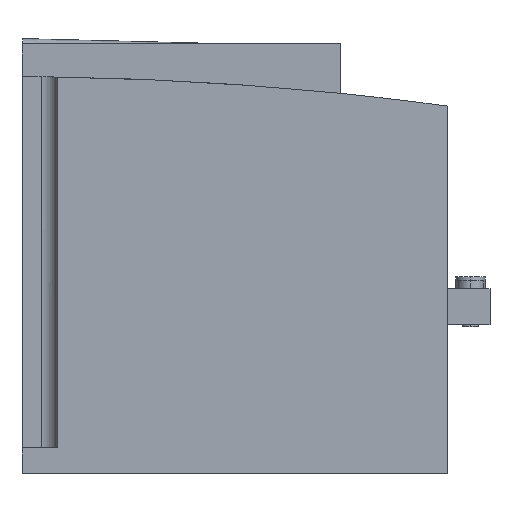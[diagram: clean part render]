
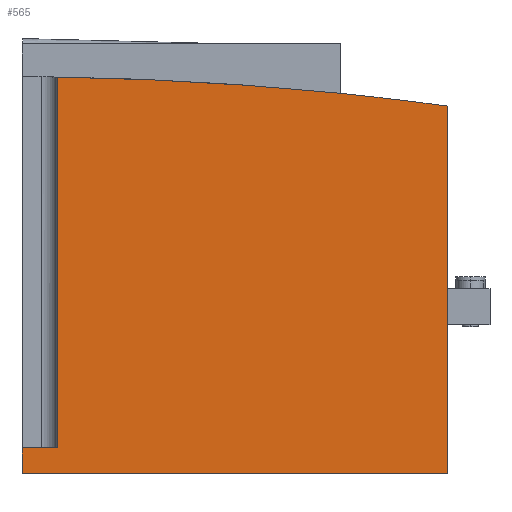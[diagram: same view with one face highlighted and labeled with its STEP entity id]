
A CAD part, left-side view. The second image highlights one B-rep face of the part: STEP entity #565.
In plain terms, the highlighted planar face has unit normal (-1, 0, 0).
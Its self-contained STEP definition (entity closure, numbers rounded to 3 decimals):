
#565=ADVANCED_FACE('',(#1069),#1070,.T.);
#1069=FACE_OUTER_BOUND('',#1383,.T.);
#1070=PLANE('',#1384);
#1383=EDGE_LOOP('',(#1973,#1974,#1975,#1976,#1977,#1978,#1979,#1980));
#1384=AXIS2_PLACEMENT_3D('',#1981,#1982,#1983);
#1973=ORIENTED_EDGE('',*,*,#2668,.T.);
#1974=ORIENTED_EDGE('',*,*,#2671,.F.);
#1975=ORIENTED_EDGE('',*,*,#2672,.T.);
#1976=ORIENTED_EDGE('',*,*,#2673,.F.);
#1977=ORIENTED_EDGE('',*,*,#2674,.F.);
#1978=ORIENTED_EDGE('',*,*,#2675,.T.);
#1979=ORIENTED_EDGE('',*,*,#2676,.F.);
#1980=ORIENTED_EDGE('',*,*,#2632,.F.);
#1981=CARTESIAN_POINT('',(-52.5,59.631,1.5));
#1982=DIRECTION('',(-1.0,0.,0.0));
#1983=DIRECTION('',(0.,-1.0,0.0));
#2632=EDGE_CURVE('',#3140,#3142,#3143,.T.);
#2668=EDGE_CURVE('',#3140,#3192,#3194,.T.);
#2671=EDGE_CURVE('',#3198,#3192,#3199,.T.);
#2672=EDGE_CURVE('',#3198,#3200,#3201,.T.);
#2673=EDGE_CURVE('',#3202,#3200,#3203,.T.);
#2674=EDGE_CURVE('',#3204,#3202,#3205,.T.);
#2675=EDGE_CURVE('',#3204,#3206,#3207,.T.);
#2676=EDGE_CURVE('',#3142,#3206,#3208,.T.);
#3140=VERTEX_POINT('',#3476);
#3142=VERTEX_POINT('',#3479);
#3143=LINE('',#3480,#3481);
#3192=VERTEX_POINT('',#3568);
#3194=CIRCLE('',#3571,1021.569);
#3198=VERTEX_POINT('',#3577);
#3199=LINE('',#3578,#3579);
#3200=VERTEX_POINT('',#3580);
#3201=LINE('',#3581,#3582);
#3202=VERTEX_POINT('',#3583);
#3203=LINE('',#3584,#3585);
#3204=VERTEX_POINT('',#3586);
#3205=LINE('',#3587,#3588);
#3206=VERTEX_POINT('',#3589);
#3207=LINE('',#3590,#3591);
#3208=CIRCLE('',#3592,1063.459);
#3476=CARTESIAN_POINT('',(-52.5,32.8,116.15));
#3479=CARTESIAN_POINT('',(-52.5,32.8,116.143));
#3480=CARTESIAN_POINT('',(-52.5,32.8,62.611));
#3481=VECTOR('',#3816,1.0);
#3568=CARTESIAN_POINT('',(-52.5,119.262,121.113));
#3571=AXIS2_PLACEMENT_3D('',#3875,#3876,#3877);
#3577=CARTESIAN_POINT('',(-52.5,119.262,7.8));
#3578=CARTESIAN_POINT('',(-52.5,119.262,1.5));
#3579=VECTOR('',#3880,1.0);
#3580=CARTESIAN_POINT('',(-52.5,130.0,7.8));
#3581=CARTESIAN_POINT('',(-52.5,0.,7.8));
#3582=VECTOR('',#3881,1.0);
#3583=CARTESIAN_POINT('',(-52.5,130.0,0.0));
#3584=CARTESIAN_POINT('',(-52.5,130.0,0.0));
#3585=VECTOR('',#3882,1.0);
#3586=CARTESIAN_POINT('',(-52.5,0.,0.0));
#3587=CARTESIAN_POINT('',(-52.5,0.,0.0));
#3588=VECTOR('',#3883,1.0);
#3589=CARTESIAN_POINT('',(-52.5,0.,112.247));
#3590=CARTESIAN_POINT('',(-52.5,0.,0.0));
#3591=VECTOR('',#3884,1.0);
#3592=AXIS2_PLACEMENT_3D('',#3885,#3886,#3887);
#3816=DIRECTION('',(0.,0.,-1.0));
#3875=CARTESIAN_POINT('',(-52.5,134.522,-900.342));
#3876=DIRECTION('',(-1.0,0.,0.));
#3877=DIRECTION('',(0.0,0.,1.0));
#3880=DIRECTION('',(0.0,0.0,1.0));
#3881=DIRECTION('',(0.,1.0,0.0));
#3882=DIRECTION('',(0.0,0.0,1.0));
#3883=DIRECTION('',(0.,1.0,0.0));
#3884=DIRECTION('',(0.0,0.0,1.0));
#3885=CARTESIAN_POINT('',(-52.5,141.805,-941.715));
#3886=DIRECTION('',(1.0,0.,0.));
#3887=DIRECTION('',(0.0,0.,1.0));
